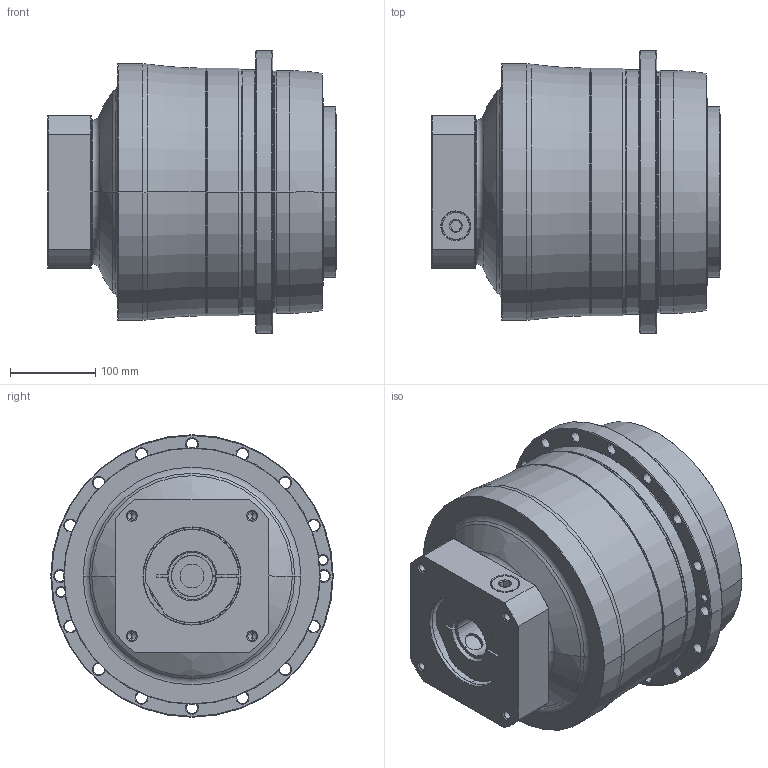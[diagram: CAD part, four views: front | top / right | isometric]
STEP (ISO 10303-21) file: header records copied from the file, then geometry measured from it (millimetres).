
FILE_DESCRIPTION((''),'2;1');
FILE_NAME('AH285_2ST_48-P0409B00101_ASM','2016-08-17T',('d01943'),(''),'PRO/ENGINEER BY PARAMETRIC TECHNOLOGY CORPORATION, 2008410','PRO/ENGINEER BY PARAMETRIC TECHNOLOGY CORPORATION, 2008410','');
FILE_SCHEMA(('CONFIG_CONTROL_DESIGN'));
Length unit declared in the file: millimetre
Products named in the file (8): P0278800003; P0359800003; P1317800301; P0409B00101; P0503B00016; P0912703001; 21711426021; AH285_2ST_48-P0409B00101_ASM
Assembly tree (7 placements, depth 2):
  AH285_2ST_48-P0409B00101_ASM
    P0278800003
    P0359800003
    P1317800301
    P0409B00101
    P0503B00016
    P0912703001
    21711426021
Bounding box: 339.5 x 332 x 332 mm (x, y, z)
Volume: 18361539 mm3; surface area: 1004735.7 mm2
Topology: 8 solids, 8 shells, 589 faces, 1337 edges, 781 vertices
Faces by surface type: cylinder 218, cone 194, plane 95, torus 66, bspline 16
Entity records: 21165 total; most frequent: CARTESIAN_POINT 7660, DIRECTION 3051, ORIENTED_EDGE 2582, EDGE_CURVE 1291, AXIS2_PLACEMENT_3D 1284, VERTEX_POINT 781, EDGE_LOOP 702, CIRCLE 696
